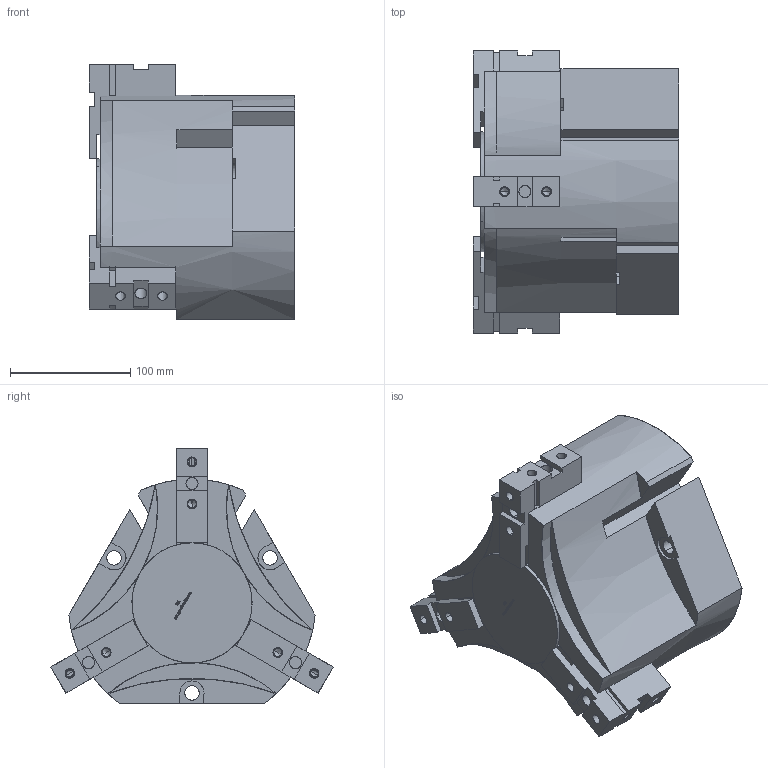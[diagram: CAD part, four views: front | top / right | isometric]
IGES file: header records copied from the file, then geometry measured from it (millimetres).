
Start section: SolidWorks IGES file using analytic representation for surfaces
Global section: file name: D:\Documents de SGA\Pieces 2D et 3D\FICHIERS SOURCES\OPE.SOLIDWORKS\OPE205-3 S\AssemblageOPE205-3S.IGS; native system: SolidWorks 2010; preprocessor: SolidWorks 2010; author: SGA; date: 111010.113641; units: millimetre
Bounding box: 171 x 235.07 x 212.22 mm (x, y, z)
Surface area: 284822.6 mm2 (no closed solid volume)
Topology: 0 solids, 0 shells, 638 faces, 7675 edges, 7655 vertices
Faces by surface type: bspline 524, revolution 114
